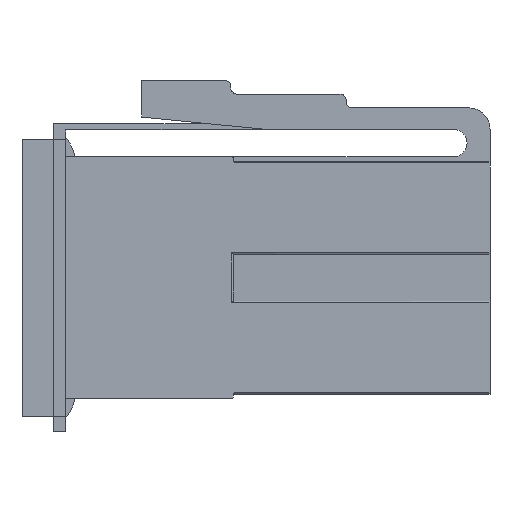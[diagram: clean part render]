
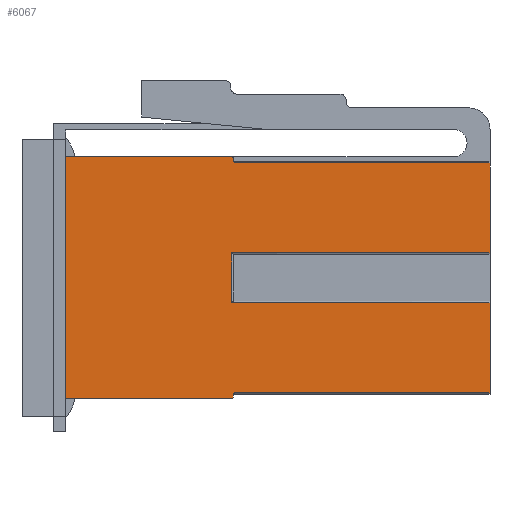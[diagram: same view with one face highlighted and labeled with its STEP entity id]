
A CAD part, left-side view. The second image highlights one B-rep face of the part: STEP entity #6067.
In plain terms, the highlighted planar face has unit normal (-1, 0, 0).
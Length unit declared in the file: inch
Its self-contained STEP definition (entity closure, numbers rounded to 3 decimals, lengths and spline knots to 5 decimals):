
#79=CIRCLE('',#6266,0.005);
#96=CIRCLE('',#6380,0.005);
#455=FACE_OUTER_BOUND('',#787,.T.);
#787=EDGE_LOOP('',(#5375,#5376,#5377,#5378,#5379,#5380,#5381,#5382,#5383,
#5384,#5385,#5386,#5387,#5388,#5389,#5390));
#966=B_SPLINE_CURVE_WITH_KNOTS('',3,(#10418,#10419,#10420,#10421,#10422,
#10423),.UNSPECIFIED.,.F.,.F.,(4,2,4),(0.,0.01493,0.02464),
 .UNSPECIFIED.);
#967=B_SPLINE_CURVE_WITH_KNOTS('',3,(#10442,#10443,#10444,#10445,#10446,
#10447),.UNSPECIFIED.,.F.,.F.,(4,2,4),(0.0642,0.07391,
0.08884),.UNSPECIFIED.);
#1275=LINE('',#9746,#1966);
#1303=LINE('',#9804,#1994);
#1307=LINE('',#9816,#1998);
#1365=LINE('',#9944,#2056);
#1400=LINE('',#10023,#2091);
#1600=LINE('',#10436,#2291);
#1604=LINE('',#10456,#2295);
#1605=LINE('',#10459,#2296);
#1606=LINE('',#10461,#2297);
#1607=LINE('',#10462,#2298);
#1608=LINE('',#10463,#2299);
#1609=LINE('',#10464,#2300);
#1966=VECTOR('',#6938,0.3937);
#1994=VECTOR('',#6990,0.3937);
#1998=VECTOR('',#6998,0.3937);
#2056=VECTOR('',#7104,0.3937);
#2091=VECTOR('',#7181,0.3937);
#2291=VECTOR('',#7553,0.3937);
#2295=VECTOR('',#7573,0.3937);
#2296=VECTOR('',#7576,0.3937);
#2297=VECTOR('',#7577,0.3937);
#2298=VECTOR('',#7578,0.3937);
#2299=VECTOR('',#7579,0.3937);
#2300=VECTOR('',#7580,0.3937);
#2678=VERTEX_POINT('',#9743);
#2679=VERTEX_POINT('',#9745);
#2696=VERTEX_POINT('',#9801);
#2697=VERTEX_POINT('',#9803);
#2702=VERTEX_POINT('',#9813);
#2703=VERTEX_POINT('',#9815);
#2748=VERTEX_POINT('',#9939);
#2749=VERTEX_POINT('',#9943);
#2772=VERTEX_POINT('',#10021);
#2889=VERTEX_POINT('',#10415);
#2890=VERTEX_POINT('',#10417);
#2893=VERTEX_POINT('',#10435);
#2894=VERTEX_POINT('',#10441);
#2895=VERTEX_POINT('',#10450);
#2896=VERTEX_POINT('',#10458);
#2897=VERTEX_POINT('',#10460);
#3387=EDGE_CURVE('',#2679,#2678,#1275,.T.);
#3417=EDGE_CURVE('',#2697,#2696,#1303,.T.);
#3423=EDGE_CURVE('',#2703,#2702,#1307,.T.);
#3486=EDGE_CURVE('',#2679,#2748,#79,.T.);
#3488=EDGE_CURVE('',#2749,#2748,#1365,.T.);
#3529=EDGE_CURVE('',#2772,#2678,#1400,.T.);
#3731=EDGE_CURVE('',#2889,#2890,#966,.T.);
#3738=EDGE_CURVE('',#2893,#2890,#1600,.T.);
#3741=EDGE_CURVE('',#2749,#2894,#967,.T.);
#3743=EDGE_CURVE('',#2893,#2895,#96,.T.);
#3746=EDGE_CURVE('',#2703,#2889,#1604,.T.);
#3747=EDGE_CURVE('',#2896,#2702,#1605,.T.);
#3748=EDGE_CURVE('',#2897,#2896,#1606,.T.);
#3749=EDGE_CURVE('',#2697,#2897,#1607,.T.);
#3750=EDGE_CURVE('',#2894,#2696,#1608,.T.);
#3751=EDGE_CURVE('',#2895,#2772,#1609,.T.);
#5375=ORIENTED_EDGE('',*,*,#3743,.F.);
#5376=ORIENTED_EDGE('',*,*,#3738,.T.);
#5377=ORIENTED_EDGE('',*,*,#3731,.F.);
#5378=ORIENTED_EDGE('',*,*,#3746,.F.);
#5379=ORIENTED_EDGE('',*,*,#3423,.T.);
#5380=ORIENTED_EDGE('',*,*,#3747,.F.);
#5381=ORIENTED_EDGE('',*,*,#3748,.F.);
#5382=ORIENTED_EDGE('',*,*,#3749,.F.);
#5383=ORIENTED_EDGE('',*,*,#3417,.T.);
#5384=ORIENTED_EDGE('',*,*,#3750,.F.);
#5385=ORIENTED_EDGE('',*,*,#3741,.F.);
#5386=ORIENTED_EDGE('',*,*,#3488,.T.);
#5387=ORIENTED_EDGE('',*,*,#3486,.F.);
#5388=ORIENTED_EDGE('',*,*,#3387,.T.);
#5389=ORIENTED_EDGE('',*,*,#3529,.F.);
#5390=ORIENTED_EDGE('',*,*,#3751,.F.);
#5752=PLANE('',#6383);
#6067=ADVANCED_FACE('',(#455),#5752,.T.);
#6266=AXIS2_PLACEMENT_3D('',#9940,#7099,#7100);
#6380=AXIS2_PLACEMENT_3D('',#10451,#7565,#7566);
#6383=AXIS2_PLACEMENT_3D('',#10457,#7574,#7575);
#6938=DIRECTION('',(0.,1.,0.));
#6990=DIRECTION('',(0.,0.,1.));
#6998=DIRECTION('',(0.,0.,1.));
#7099=DIRECTION('center_axis',(1.,0.,0.));
#7100=DIRECTION('ref_axis',(0.,-0.707,0.707));
#7104=DIRECTION('',(0.,0.,1.));
#7181=DIRECTION('',(0.,0.,1.));
#7553=DIRECTION('',(0.,0.,1.));
#7565=DIRECTION('center_axis',(1.,0.,0.));
#7566=DIRECTION('ref_axis',(0.,-0.707,-0.707));
#7573=DIRECTION('',(0.,1.,0.));
#7574=DIRECTION('center_axis',(-1.,0.,0.));
#7575=DIRECTION('ref_axis',(0.,0.,1.));
#7576=DIRECTION('',(0.,-1.,0.));
#7577=DIRECTION('',(0.,0.,-1.));
#7578=DIRECTION('',(0.,1.,0.));
#7579=DIRECTION('',(0.,-1.,0.));
#7580=DIRECTION('',(0.,1.,0.));
#9743=CARTESIAN_POINT('',(-0.27362,1.38583,0.395));
#9745=CARTESIAN_POINT('',(-0.27362,0.84358,0.395));
#9746=CARTESIAN_POINT('',(-0.27362,0.,0.395));
#9801=CARTESIAN_POINT('',(-0.27362,0.,0.375));
#9803=CARTESIAN_POINT('',(-0.27362,0.,0.08138));
#9804=CARTESIAN_POINT('',(-0.27362,0.,-0.395));
#9813=CARTESIAN_POINT('',(-0.27362,0.,-0.08138));
#9815=CARTESIAN_POINT('',(-0.27362,0.,-0.375));
#9816=CARTESIAN_POINT('',(-0.27362,0.,-0.395));
#9939=CARTESIAN_POINT('',(-0.27362,0.83858,0.39));
#9940=CARTESIAN_POINT('Origin',(-0.27362,0.84358,0.39));
#9943=CARTESIAN_POINT('',(-0.27362,0.83858,0.38366));
#9944=CARTESIAN_POINT('',(-0.27362,0.83858,0.));
#10021=CARTESIAN_POINT('',(-0.27362,1.38583,-0.395));
#10023=CARTESIAN_POINT('',(-0.27362,1.38583,-0.395));
#10415=CARTESIAN_POINT('',(-0.27362,0.83358,-0.375));
#10417=CARTESIAN_POINT('',(-0.27362,0.83858,-0.38366));
#10418=CARTESIAN_POINT('Ctrl Pts',(-0.27362,0.83358,
-0.375));
#10419=CARTESIAN_POINT('Ctrl Pts',(-0.27362,0.83497,
-0.37639));
#10420=CARTESIAN_POINT('Ctrl Pts',(-0.27362,0.8366,
-0.37808));
#10421=CARTESIAN_POINT('Ctrl Pts',(-0.27362,0.83813,
-0.38092));
#10422=CARTESIAN_POINT('Ctrl Pts',(-0.27362,0.83858,
-0.38239));
#10423=CARTESIAN_POINT('Ctrl Pts',(-0.27362,0.83858,
-0.38366));
#10435=CARTESIAN_POINT('',(-0.27362,0.83858,-0.39));
#10436=CARTESIAN_POINT('',(-0.27362,0.83858,-0.395));
#10441=CARTESIAN_POINT('',(-0.27362,0.83358,0.375));
#10442=CARTESIAN_POINT('Ctrl Pts',(-0.27362,0.83858,
0.38366));
#10443=CARTESIAN_POINT('Ctrl Pts',(-0.27362,0.83858,
0.38239));
#10444=CARTESIAN_POINT('Ctrl Pts',(-0.27362,0.83813,
0.38092));
#10445=CARTESIAN_POINT('Ctrl Pts',(-0.27362,0.8366,
0.37808));
#10446=CARTESIAN_POINT('Ctrl Pts',(-0.27362,0.83497,
0.37639));
#10447=CARTESIAN_POINT('Ctrl Pts',(-0.27362,0.83358,
0.375));
#10450=CARTESIAN_POINT('',(-0.27362,0.84358,-0.395));
#10451=CARTESIAN_POINT('Origin',(-0.27362,0.84358,-0.39));
#10456=CARTESIAN_POINT('',(-0.27362,0.20965,-0.375));
#10457=CARTESIAN_POINT('Origin',(-0.27362,0.,-0.395));
#10458=CARTESIAN_POINT('',(-0.27362,0.84358,-0.08138));
#10459=CARTESIAN_POINT('',(-0.27362,0.41929,-0.08138));
#10460=CARTESIAN_POINT('',(-0.27362,0.84358,0.08138));
#10461=CARTESIAN_POINT('',(-0.27362,0.84358,-0.15931));
#10462=CARTESIAN_POINT('',(-0.27362,0.,0.08138));
#10463=CARTESIAN_POINT('',(-0.27362,0.20965,0.375));
#10464=CARTESIAN_POINT('',(-0.27362,0.,-0.395));
